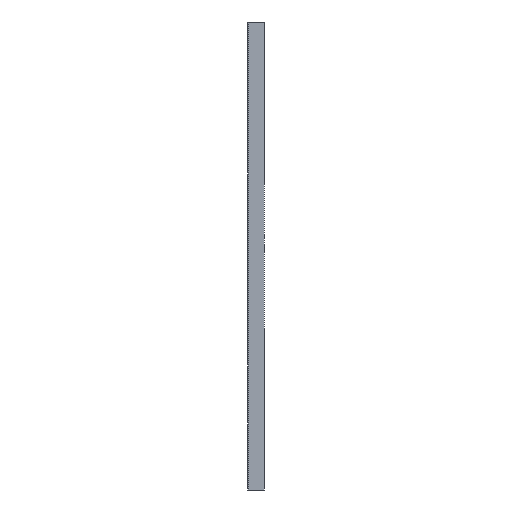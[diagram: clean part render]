
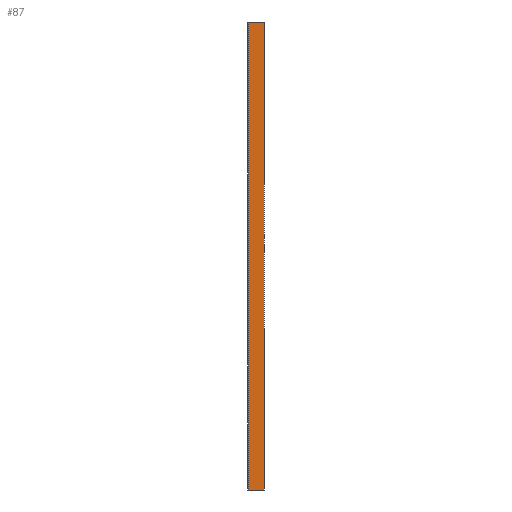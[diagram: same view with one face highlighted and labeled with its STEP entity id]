
A CAD part, left-side view. The second image highlights one B-rep face of the part: STEP entity #87.
In plain terms, the highlighted planar face has unit normal (-1, 0, 0).
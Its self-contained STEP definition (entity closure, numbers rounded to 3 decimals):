
#19 = EDGE_CURVE ( 'NONE', #483, #419, #139, .T. ) ;
#24 = VERTEX_POINT ( 'NONE', #920 ) ;
#53 = PLANE ( 'NONE',  #272 ) ;
#68 = DIRECTION ( 'NONE',  ( 0., 0., 1. ) ) ;
#87 = ADVANCED_FACE ( 'NONE', ( #873 ), #53, .T. ) ;
#94 = ORIENTED_EDGE ( 'NONE', *, *, #184, .T. ) ;
#139 = LINE ( 'NONE', #820, #784 ) ;
#152 = DIRECTION ( 'NONE',  ( -1., 0., 0. ) ) ;
#162 = LINE ( 'NONE', #598, #647 ) ;
#184 = EDGE_CURVE ( 'NONE', #358, #419, #162, .T. ) ;
#229 = VECTOR ( 'NONE', #68, 1000. ) ;
#242 = DIRECTION ( 'NONE',  ( 0., 0., 1. ) ) ;
#249 = DIRECTION ( 'NONE',  ( 0., 1., 0. ) ) ;
#272 = AXIS2_PLACEMENT_3D ( 'NONE', #1104, #152, #242 ) ;
#310 = CARTESIAN_POINT ( 'NONE',  ( -278., -17., -444. ) ) ;
#358 = VERTEX_POINT ( 'NONE', #866 ) ;
#402 = DIRECTION ( 'NONE',  ( 0., 1., 0. ) ) ;
#419 = VERTEX_POINT ( 'NONE', #828 ) ;
#483 = VERTEX_POINT ( 'NONE', #817 ) ;
#502 = VECTOR ( 'NONE', #402, 1000. ) ;
#590 = EDGE_CURVE ( 'NONE', #24, #358, #857, .T. ) ;
#598 = CARTESIAN_POINT ( 'NONE',  ( -278., -17., 40. ) ) ;
#619 = EDGE_CURVE ( 'NONE', #24, #483, #927, .T. ) ;
#629 = ORIENTED_EDGE ( 'NONE', *, *, #590, .T. ) ;
#647 = VECTOR ( 'NONE', #249, 1000. ) ;
#748 = EDGE_LOOP ( 'NONE', ( #906, #877, #629, #94 ) ) ;
#784 = VECTOR ( 'NONE', #841, 1000. ) ;
#817 = CARTESIAN_POINT ( 'NONE',  ( -278., 0., -444. ) ) ;
#820 = CARTESIAN_POINT ( 'NONE',  ( -278., 0., -444. ) ) ;
#828 = CARTESIAN_POINT ( 'NONE',  ( -278., 0., 40. ) ) ;
#841 = DIRECTION ( 'NONE',  ( 0., 0., 1. ) ) ;
#857 = LINE ( 'NONE', #1013, #229 ) ;
#866 = CARTESIAN_POINT ( 'NONE',  ( -278., -17., 40. ) ) ;
#873 = FACE_OUTER_BOUND ( 'NONE', #748, .T. ) ;
#877 = ORIENTED_EDGE ( 'NONE', *, *, #619, .F. ) ;
#906 = ORIENTED_EDGE ( 'NONE', *, *, #19, .F. ) ;
#920 = CARTESIAN_POINT ( 'NONE',  ( -278., -17., -444. ) ) ;
#927 = LINE ( 'NONE', #310, #502 ) ;
#1013 = CARTESIAN_POINT ( 'NONE',  ( -278., -17., -444. ) ) ;
#1104 = CARTESIAN_POINT ( 'NONE',  ( -278., -17., -444. ) ) ;
